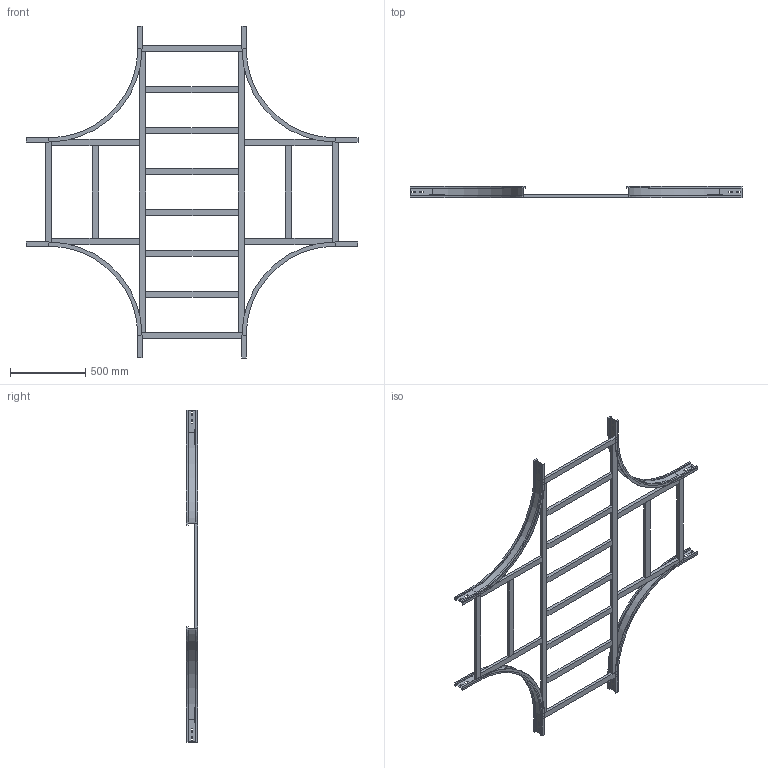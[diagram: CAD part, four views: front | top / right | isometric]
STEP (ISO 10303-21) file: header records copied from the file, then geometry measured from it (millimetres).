
FILE_DESCRIPTION (( 'STEP AP214' ), '1' );
FILE_NAME ('17S6C700.step', '2025-02-21T16:19:18', ( '' ), ( '' ), 'SwSTEP 2.0', 'SolidWorks 2023', '' );
FILE_SCHEMA (( 'AUTOMOTIVE_DESIGN' ));
Length unit declared in the file: millimetre
Products named in the file (7): TRAVERSINO_LONG._R600+700; 17S6C700; LONGH.INTERNO 90°_H75_R600; TRAVERSINO_COPPIA_700; TRAVERSINO_VERT_R600; TRAVERSINO_INTERMEDIO_X_R600+700; TRAVERSINO_700
Assembly tree (22 placements, depth 2):
  17S6C700
    LONGH.INTERNO 90°_H75_R600  x4
    TRAVERSINO_700  x4
    TRAVERSINO_LONG._R600+700  x2
    TRAVERSINO_INTERMEDIO_X_R600+700  x6
    TRAVERSINO_VERT_R600  x4
    TRAVERSINO_COPPIA_700  x2
Bounding box: 2200 x 75 x 2200 mm (x, y, z)
Volume: 13591523.5 mm3; surface area: 2922741.8 mm2
Topology: 22 solids, 22 shells, 324 faces, 744 edges, 464 vertices
Faces by surface type: plane 300, cylinder 24
Entity records: 2660 total; most frequent: DIRECTION 422, CARTESIAN_POINT 421, ORIENTED_EDGE 384, EDGE_CURVE 192, VECTOR 180, LINE 180, AXIS2_PLACEMENT_3D 121, VERTEX_POINT 120
